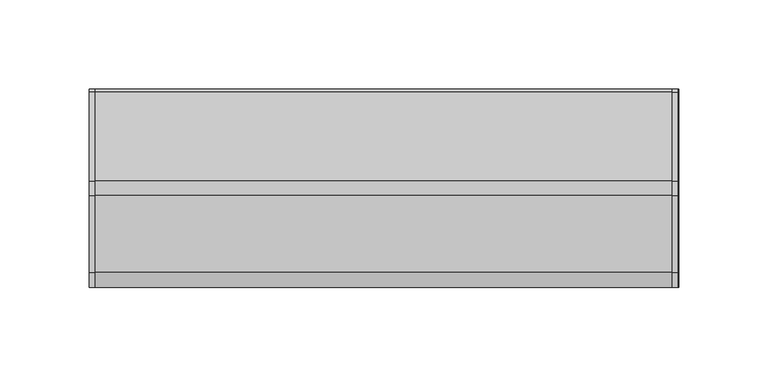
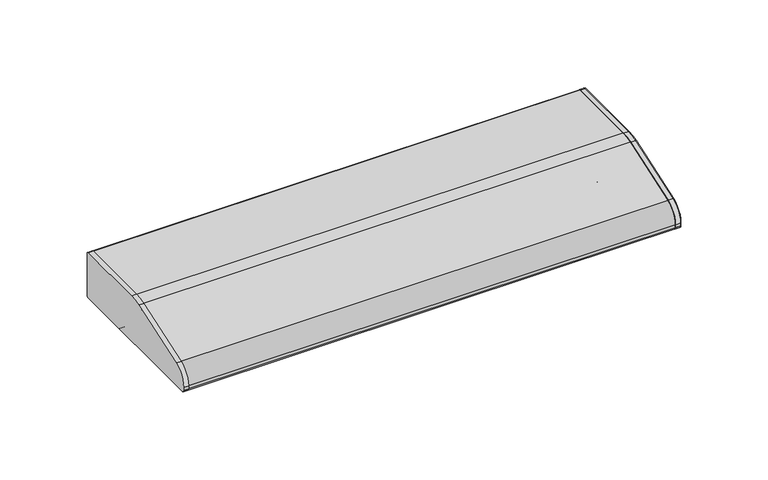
"""IFC4 building model written with IfcOpenShell, lengths in millimetres: light fixture geometry, HermanMiller_SupplementalProducts_G6136_UtilityTaskLight : AO Etho Canvas 24W."""

from ifc_helpers import new_model, si_unit, point, frame, frame_2d, origin, place, context, project, spatial, polyline, circle_curve, trimmed, segment, composite_curve, outline, extrude, source, transform, mapped, element, save


def light_fixture_d42206f9(model_context):
    return source(origin(), model_context, "Body", "SweptSolid", [
        extrude(outline(composite_curve([segment(polyline([(53.975, 1314.45), (-53.975, 1314.45)]), True, "CONTINUOUS"), segment(trimmed(circle_curve(frame_2d((-53.975, 1316.0375)), 1.5875), [point((-53.975, 1314.45))], [point((-55.5625, 1316.0375))], False, "CARTESIAN"), True, "CONTINUOUS"), segment(polyline([(-55.5625, 1316.0375), (-55.5625, 1318.0785714)]), True, "CONTINUOUS"), segment(trimmed(circle_curve(frame_2d((-42.8625, 1318.0785714)), 12.7), [point((-55.5625, 1318.0785714))], [point((-46.9814189, 1330.0920849))], False, "CARTESIAN"), True, "CONTINUOUS"), segment(polyline([(-46.9814189, 1330.0920849), (-4.0045045, 1344.827027)]), True, "CONTINUOUS"), segment(trimmed(circle_curve(frame_2d((4.2333333, 1320.8)), 25.4), [point((-4.0045045, 1344.827027))], [point((4.2333333, 1346.2))], False, "CARTESIAN"), True, "CONTINUOUS"), segment(polyline([(4.2333333, 1346.2), (53.975, 1346.2)]), True, "CONTINUOUS"), segment(trimmed(circle_curve(frame_2d((53.975, 1344.6125)), 1.5875), [point((53.975, 1346.2))], [point((55.5625, 1344.6125))], False, "CARTESIAN"), True, "CONTINUOUS"), segment(polyline([(55.5625, 1344.6125), (55.5625, 1316.0375)]), True, "CONTINUOUS"), segment(trimmed(circle_curve(frame_2d((53.975, 1316.0375)), 1.5875), [point((55.5625, 1316.0375))], [point((53.975, 1314.45))], False, "CARTESIAN"), True, "CONTINUOUS")], self_intersect=False)), frame((161.544, 0.0, 0.0), z_axis=(1.0, 0.0, 0.0), x_axis=(0.0, 1.0, 0.0)), (0.0, 0.0, 1.0), 3.175),
        extrude(outline(composite_curve([segment(trimmed(circle_curve(frame_2d((53.975, 1344.6125)), 1.5875), [point((53.975, 1346.2))], [point((55.5625, 1344.6125))], False, "CARTESIAN"), True, "CONTINUOUS"), segment(polyline([(55.5625, 1344.6125), (55.5625, 1316.0375)]), True, "CONTINUOUS"), segment(trimmed(circle_curve(frame_2d((53.975, 1316.0375)), 1.5875), [point((55.5625, 1316.0375))], [point((53.975, 1314.45))], False, "CARTESIAN"), True, "CONTINUOUS"), segment(polyline([(53.975, 1314.45), (-53.975, 1314.45)]), True, "CONTINUOUS"), segment(trimmed(circle_curve(frame_2d((-53.975, 1316.0375)), 1.5875), [point((-53.975, 1314.45))], [point((-55.5625, 1316.0375))], False, "CARTESIAN"), True, "CONTINUOUS"), segment(polyline([(-55.5625, 1316.0375), (-55.5625, 1318.0785714)]), True, "CONTINUOUS"), segment(trimmed(circle_curve(frame_2d((-42.8625, 1318.0785714)), 12.7), [point((-55.5625, 1318.0785714))], [point((-46.9814189, 1330.0920849))], False, "CARTESIAN"), True, "CONTINUOUS"), segment(polyline([(-46.9814189, 1330.0920849), (-4.0045045, 1344.827027)]), True, "CONTINUOUS"), segment(trimmed(circle_curve(frame_2d((4.2333333, 1320.8)), 25.4), [point((-4.0045045, 1344.827027))], [point((4.2333333, 1346.2))], False, "CARTESIAN"), True, "CONTINUOUS"), segment(polyline([(4.2333333, 1346.2), (53.975, 1346.2)]), True, "CONTINUOUS")], self_intersect=False)), frame((-164.719, 0.0, 0.0), z_axis=(1.0, 0.0, 0.0), x_axis=(0.0, 1.0, 0.0)), (0.0, 0.0, 1.0), 3.175),
        extrude(outline(composite_curve([segment(polyline([(55.5625, 1344.6125), (55.5625, 1316.0375)]), True, "CONTINUOUS"), segment(trimmed(circle_curve(frame_2d((53.975, 1316.0375)), 1.5875), [point((55.5625, 1316.0375))], [point((53.975, 1314.45))], False, "CARTESIAN"), True, "CONTINUOUS"), segment(polyline([(53.975, 1314.45), (19.05, 1314.45)]), True, "CONTINUOUS"), segment(trimmed(circle_curve(frame_2d((19.05, 1316.0375)), 1.5875), [point((19.05, 1314.45))], [point((17.4625, 1316.0375))], False, "CARTESIAN"), True, "CONTINUOUS"), segment(polyline([(17.4625, 1316.0375), (17.4625, 1344.6125), (4.4979167, 1344.6125)]), True, "CONTINUOUS"), segment(trimmed(circle_curve(frame_2d((4.4979167, 1319.2125)), 25.4), [point((4.4979167, 1344.6125))], [point((-3.7399212, 1343.239527))], True, "CARTESIAN"), True, "CONTINUOUS"), segment(polyline([(-3.7399212, 1343.239527), (-37.4564189, 1331.6795849)]), True, "CONTINUOUS"), segment(trimmed(circle_curve(frame_2d((-33.3375, 1319.6660714)), 12.7), [point((-37.4564189, 1331.6795849))], [point((-46.0375, 1319.6660714))], True, "CARTESIAN"), True, "CONTINUOUS"), segment(polyline([(-46.0375, 1319.6660714), (-46.0375, 1316.0375)]), True, "CONTINUOUS"), segment(trimmed(circle_curve(frame_2d((-47.625, 1316.0375)), 1.5875), [point((-46.0375, 1316.0375))], [point((-47.625, 1314.45))], False, "CARTESIAN"), True, "CONTINUOUS"), segment(polyline([(-47.625, 1314.45), (-53.975, 1314.45)]), True, "CONTINUOUS"), segment(trimmed(circle_curve(frame_2d((-53.975, 1316.0375)), 1.5875), [point((-53.975, 1314.45))], [point((-55.5625, 1316.0375))], False, "CARTESIAN"), True, "CONTINUOUS"), segment(polyline([(-55.5625, 1316.0375), (-55.5625, 1318.0785714)]), True, "CONTINUOUS"), segment(trimmed(circle_curve(frame_2d((-42.8625, 1318.0785714)), 12.7), [point((-55.5625, 1318.0785714))], [point((-46.9814189, 1330.0920849))], False, "CARTESIAN"), True, "CONTINUOUS"), segment(polyline([(-46.9814189, 1330.0920849), (-4.0045045, 1344.827027)]), True, "CONTINUOUS"), segment(trimmed(circle_curve(frame_2d((4.2333333, 1320.8)), 25.4), [point((-4.0045045, 1344.827027))], [point((4.2333333, 1346.2))], False, "CARTESIAN"), True, "CONTINUOUS"), segment(polyline([(4.2333333, 1346.2), (53.975, 1346.2)]), True, "CONTINUOUS"), segment(trimmed(circle_curve(frame_2d((53.975, 1344.6125)), 1.5875), [point((53.975, 1346.2))], [point((55.5625, 1344.6125))], False, "CARTESIAN"), True, "CONTINUOUS")], self_intersect=False)), frame((-164.719, 0.0, 0.0), z_axis=(1.0, 0.0, 0.0), x_axis=(0.0, 1.0, 0.0)), (0.0, 0.0, 1.0), 329.9040011),
        extrude(outline(composite_curve([segment(trimmed(circle_curve(frame_2d((1.5875, 1331.9125)), 9.525), [point((-7.9375, 1331.9125))], [point((11.1125, 1331.9125))], False, "CARTESIAN"), True, "CONTINUOUS"), segment(trimmed(circle_curve(frame_2d((1.5875, 1331.9125)), 9.525), [point((11.1125, 1331.9125))], [point((-7.9375, 1331.9125))], False, "CARTESIAN"), True, "CONTINUOUS")], self_intersect=False)), frame((139.319, 0.0, 0.0), z_axis=(1.0, 0.0, 0.0), x_axis=(0.0, 1.0, 0.0)), (0.0, 0.0, 1.0), 12.7),
        extrude(outline(composite_curve([segment(trimmed(circle_curve(frame_2d((1.5875, 1331.9125)), 9.525), [point((-7.9375, 1331.9125))], [point((11.1125, 1331.9125))], False, "CARTESIAN"), True, "CONTINUOUS"), segment(trimmed(circle_curve(frame_2d((1.5875, 1331.9125)), 9.525), [point((11.1125, 1331.9125))], [point((-7.9375, 1331.9125))], False, "CARTESIAN"), True, "CONTINUOUS")], self_intersect=False)), frame((-152.019, 0.0, 0.0), z_axis=(1.0, 0.0, 0.0), x_axis=(0.0, 1.0, 0.0)), (0.0, 0.0, 1.0), 12.7),
        extrude(outline(composite_curve([segment(trimmed(circle_curve(frame_2d((1.5875, 1331.9125)), 9.525), [point((-7.9375, 1331.9125))], [point((11.1125, 1331.9125))], False, "CARTESIAN"), True, "CONTINUOUS"), segment(trimmed(circle_curve(frame_2d((1.5875, 1331.9125)), 9.525), [point((11.1125, 1331.9125))], [point((-7.9375, 1331.9125))], False, "CARTESIAN"), True, "CONTINUOUS")], self_intersect=False)), frame((-139.319, 0.0, 0.0), z_axis=(1.0, 0.0, 0.0), x_axis=(0.0, 1.0, 0.0)), (0.0, 0.0, 1.0), 278.638),
        extrude(outline(composite_curve([segment(polyline([(17.4625, 1317.625), (-46.0375, 1317.625), (-46.0375, 1319.6660714)]), True, "CONTINUOUS"), segment(trimmed(circle_curve(frame_2d((-33.3375, 1319.6660714)), 12.7), [point((-46.0375, 1319.6660714))], [point((-37.4564189, 1331.6795849))], False, "CARTESIAN"), True, "CONTINUOUS"), segment(polyline([(-37.4564189, 1331.6795849), (-3.7399212, 1343.239527)]), True, "CONTINUOUS"), segment(trimmed(circle_curve(frame_2d((4.4979167, 1319.2125)), 25.4), [point((-3.7399212, 1343.239527))], [point((4.4979167, 1344.6125))], False, "CARTESIAN"), True, "CONTINUOUS"), segment(polyline([(4.4979167, 1344.6125), (17.4625, 1344.6125), (17.4625, 1317.625)]), True, "CONTINUOUS")], self_intersect=False)), frame((152.019, 0.0, 0.0), z_axis=(1.0, 0.0, 0.0), x_axis=(0.0, 1.0, 0.0)), (0.0, 0.0, 1.0), 9.525),
        extrude(outline(composite_curve([segment(polyline([(17.4625, 1317.625), (-46.0375, 1317.625), (-46.0375, 1319.6660714)]), True, "CONTINUOUS"), segment(trimmed(circle_curve(frame_2d((-33.3375, 1319.6660714)), 12.7), [point((-46.0375, 1319.6660714))], [point((-37.4564189, 1331.6795849))], False, "CARTESIAN"), True, "CONTINUOUS"), segment(polyline([(-37.4564189, 1331.6795849), (-3.7399212, 1343.239527)]), True, "CONTINUOUS"), segment(trimmed(circle_curve(frame_2d((4.4979167, 1319.2125)), 25.4), [point((-3.7399212, 1343.239527))], [point((4.4979167, 1344.6125))], False, "CARTESIAN"), True, "CONTINUOUS"), segment(polyline([(4.4979167, 1344.6125), (17.4625, 1344.6125), (17.4625, 1317.625)]), True, "CONTINUOUS")], self_intersect=False)), frame((-161.544, 0.0, 0.0), z_axis=(1.0, 0.0, 0.0), x_axis=(0.0, 1.0, 0.0)), (0.0, 0.0, 1.0), 9.525),
    ])


if __name__ == "__main__":
    model = new_model("IFC4")
    model_context = context("Model", 3, world=origin())
    ifc_project = project(units=[si_unit("LENGTHUNIT", "METRE", prefix="MILLI")], contexts=[model_context])
    site = spatial("IfcSite", under=ifc_project)
    building = spatial("IfcBuilding", under=site)
    placement = place(None, origin())
    light_fixture_shape = light_fixture_d42206f9(model_context)
    element("IfcLightFixture", 1, ObjectType="HermanMiller_SupplementalProducts_G6136_UtilityTaskLight : AO Etho Canvas 24W", at=placement, inside=building, context=model_context, shape_type="MappedRepresentation", body=[
        mapped(light_fixture_shape, transform((0.0, 0.0, 0.0), x_axis=(1.0, 0.0, 0.0), y_axis=(0.0, 1.0, 0.0), z_axis=(0.0, 0.0, 1.0))),
    ])
    save(model, "model.ifc")
